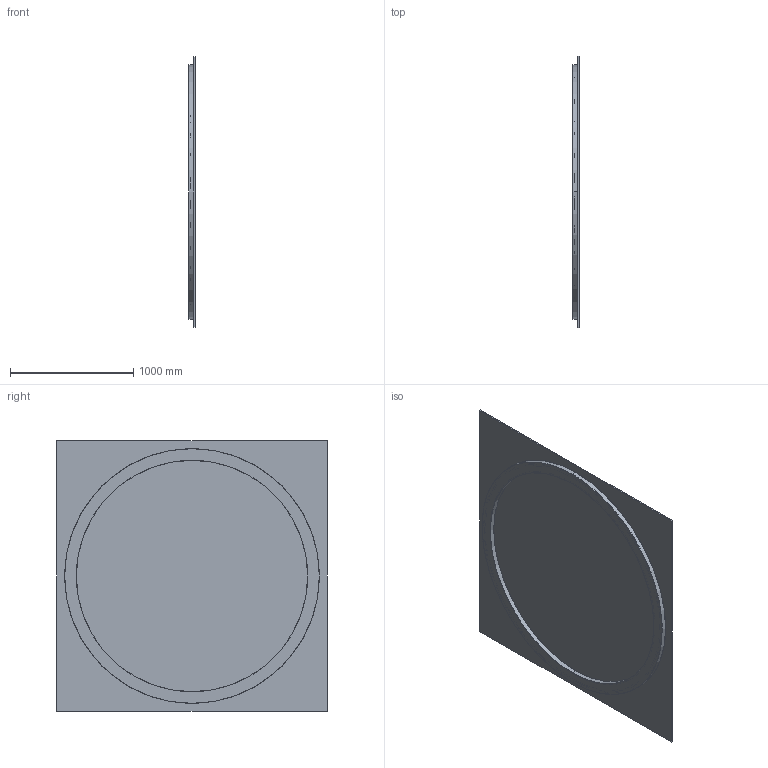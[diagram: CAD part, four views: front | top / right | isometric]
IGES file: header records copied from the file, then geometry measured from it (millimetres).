
Start section: SolidWorks IGES file using analytic representation for surfaces
Global section: file name: C:\Users\Stagiaire\Desktop\Rendu 3D\Micro BLADE circle\Micro BLADE circle 200\769_Micro_BLADE_circle_200.IGS; native system: SolidWorks 2014; preprocessor: SolidWorks 2014; author: Stagiaire; date: 140915.113436; units: millimetre
Bounding box: 50 x 2200 x 2200 mm (x, y, z)
Surface area: 11870880.9 mm2 (no closed solid volume)
Topology: 0 solids, 0 shells, 50 faces, 944 edges, 944 vertices
Faces by surface type: revolution 34, bspline 16
